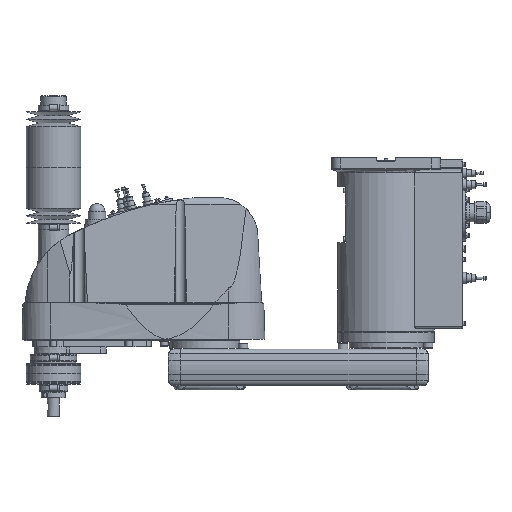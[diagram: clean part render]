
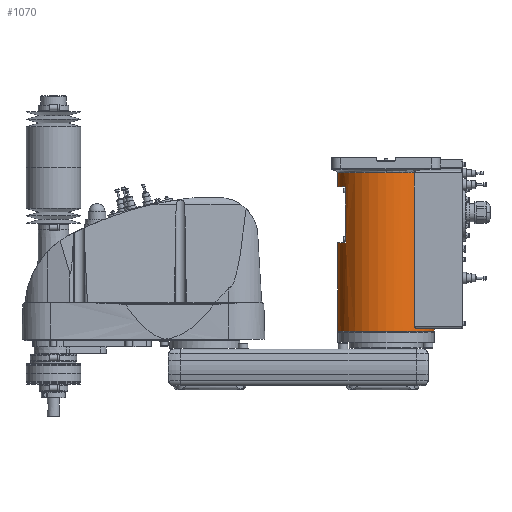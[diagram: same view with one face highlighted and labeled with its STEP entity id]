
A CAD part, top view. The second image highlights one B-rep face of the part: STEP entity #1070.
In plain terms, the highlighted cylindrical face has radius 80 mm (diameter 160 mm), a partial arc.
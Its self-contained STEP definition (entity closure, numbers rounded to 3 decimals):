
#1070 = ADVANCED_FACE( '', ( #3649 ), #3650, .T. );
#3649 = FACE_OUTER_BOUND( '', #7555, .T. );
#3650 = CYLINDRICAL_SURFACE( '', #7556, 80. );
#7555 = EDGE_LOOP( '', ( #15163, #15164, #15165, #15166, #15167, #15168, #15169, #15170, #15171, #15172, #15173, #15174 ) );
#7556 = AXIS2_PLACEMENT_3D( '', #15175, #15176, #15177 );
#15163 = ORIENTED_EDGE( '', *, *, #24198, .T. );
#15164 = ORIENTED_EDGE( '', *, *, #25658, .T. );
#15165 = ORIENTED_EDGE( '', *, *, #25654, .T. );
#15166 = ORIENTED_EDGE( '', *, *, #25684, .T. );
#15167 = ORIENTED_EDGE( '', *, *, #24249, .F. );
#15168 = ORIENTED_EDGE( '', *, *, #24255, .F. );
#15169 = ORIENTED_EDGE( '', *, *, #24204, .T. );
#15170 = ORIENTED_EDGE( '', *, *, #25465, .T. );
#15171 = ORIENTED_EDGE( '', *, *, #25467, .T. );
#15172 = ORIENTED_EDGE( '', *, *, #25468, .T. );
#15173 = ORIENTED_EDGE( '', *, *, #24200, .T. );
#15174 = ORIENTED_EDGE( '', *, *, #25775, .T. );
#15175 = CARTESIAN_POINT( '', ( 0., 160.75, 0. ) );
#15176 = DIRECTION( '', ( 0., -1., 0. ) );
#15177 = DIRECTION( '', ( 1., 0., 0. ) );
#24198 = EDGE_CURVE( '', #28549, #28550, #28551, .T. );
#24200 = EDGE_CURVE( '', #28554, #28552, #28555, .T. );
#24204 = EDGE_CURVE( '', #28562, #28560, #28563, .T. );
#24249 = EDGE_CURVE( '', #28648, #28650, #28651, .T. );
#24255 = EDGE_CURVE( '', #28562, #28648, #28661, .T. );
#25465 = EDGE_CURVE( '', #28560, #30657, #30659, .T. );
#25467 = EDGE_CURVE( '', #30657, #30660, #30662, .T. );
#25468 = EDGE_CURVE( '', #30660, #28554, #30663, .T. );
#25654 = EDGE_CURVE( '', #30955, #30956, #30957, .T. );
#25658 = EDGE_CURVE( '', #28550, #30955, #30961, .T. );
#25684 = EDGE_CURVE( '', #30956, #28650, #31000, .T. );
#25775 = EDGE_CURVE( '', #28552, #28549, #31137, .T. );
#28549 = VERTEX_POINT( '', #35687 );
#28550 = VERTEX_POINT( '', #35688 );
#28551 = LINE( '', #35689, #35690 );
#28552 = VERTEX_POINT( '', #35691 );
#28554 = VERTEX_POINT( '', #35693 );
#28555 = LINE( '', #35694, #35695 );
#28560 = VERTEX_POINT( '', #35701 );
#28562 = VERTEX_POINT( '', #35703 );
#28563 = LINE( '', #35704, #35705 );
#28648 = VERTEX_POINT( '', #35826 );
#28650 = VERTEX_POINT( '', #35828 );
#28651 = CIRCLE( '', #35829, 80. );
#28661 = CIRCLE( '', #35876, 80. );
#30657 = VERTEX_POINT( '', #38670 );
#30659 = CIRCLE( '', #38673, 80. );
#30660 = VERTEX_POINT( '', #38674 );
#30662 = LINE( '', #38677, #38678 );
#30663 = CIRCLE( '', #38679, 80. );
#30955 = VERTEX_POINT( '', #39164 );
#30956 = VERTEX_POINT( '', #39165 );
#30957 = B_SPLINE_CURVE_WITH_KNOTS( '', 3, ( #39166, #39167, #39168, #39169, #39170, #39171, #39172, #39173, #39174, #39175, #39176, #39177, #39178, #39179, #39180, #39181 ), .UNSPECIFIED., .F., .F., ( 4, 2, 2, 2, 2, 2, 2, 4 ), ( -6.06, -5.11, -4.16, -2.26, -1.695, -1.13, -0.565, 0. ), .UNSPECIFIED. );
#30961 = CIRCLE( '', #39188, 80. );
#31000 = LINE( '', #39294, #39295 );
#31137 = CIRCLE( '', #39567, 80. );
#35687 = CARTESIAN_POINT( '', ( 80., 30., 0. ) );
#35688 = CARTESIAN_POINT( '', ( 80., 34.5, 0. ) );
#35689 = CARTESIAN_POINT( '', ( 80., 160.75, 0. ) );
#35690 = VECTOR( '', #49468, 1. );
#35691 = CARTESIAN_POINT( '', ( -80., 30., 0. ) );
#35693 = CARTESIAN_POINT( '', ( -80., 176., 0. ) );
#35694 = CARTESIAN_POINT( '', ( -80., 160.75, 0. ) );
#35695 = VECTOR( '', #49472, 1. );
#35701 = CARTESIAN_POINT( '', ( -80., 269., 0. ) );
#35703 = CARTESIAN_POINT( '', ( -80., 291.5, 0. ) );
#35704 = CARTESIAN_POINT( '', ( -80., 160.75, 0. ) );
#35705 = VECTOR( '', #49480, 1. );
#35826 = CARTESIAN_POINT( '', ( 0., 291.5, 80. ) );
#35828 = CARTESIAN_POINT( '', ( 46.637, 291.5, 65. ) );
#35829 = AXIS2_PLACEMENT_3D( '', #49568, #49569, #49570 );
#35876 = AXIS2_PLACEMENT_3D( '', #49577, #49578, #49579 );
#38670 = CARTESIAN_POINT( '', ( -66., 269., 45.211 ) );
#38673 = AXIS2_PLACEMENT_3D( '', #51701, #51702, #51703 );
#38674 = CARTESIAN_POINT( '', ( -66., 176., 45.211 ) );
#38677 = CARTESIAN_POINT( '', ( -66., 222.5, 45.211 ) );
#38678 = VECTOR( '', #51705, 1. );
#38679 = AXIS2_PLACEMENT_3D( '', #51706, #51707, #51708 );
#39164 = CARTESIAN_POINT( '', ( 50.557, 34.5, 62. ) );
#39165 = CARTESIAN_POINT( '', ( 46.637, 37.5, 65. ) );
#39166 = CARTESIAN_POINT( '', ( 50.557, 34.5, 62. ) );
#39167 = CARTESIAN_POINT( '', ( 50.312, 34.5, 62.2 ) );
#39168 = CARTESIAN_POINT( '', ( 50.054, 34.52, 62.407 ) );
#39169 = CARTESIAN_POINT( '', ( 49.533, 34.607, 62.822 ) );
#39170 = CARTESIAN_POINT( '', ( 49.269, 34.674, 63.029 ) );
#39171 = CARTESIAN_POINT( '', ( 48.491, 34.945, 63.632 ) );
#39172 = CARTESIAN_POINT( '', ( 47.991, 35.221, 64.009 ) );
#39173 = CARTESIAN_POINT( '', ( 47.455, 35.701, 64.405 ) );
#39174 = CARTESIAN_POINT( '', ( 47.333, 35.827, 64.495 ) );
#39175 = CARTESIAN_POINT( '', ( 47.106, 36.105, 64.661 ) );
#39176 = CARTESIAN_POINT( '', ( 47.002, 36.258, 64.736 ) );
#39177 = CARTESIAN_POINT( '', ( 46.828, 36.585, 64.863 ) );
#39178 = CARTESIAN_POINT( '', ( 46.758, 36.761, 64.913 ) );
#39179 = CARTESIAN_POINT( '', ( 46.662, 37.124, 64.982 ) );
#39180 = CARTESIAN_POINT( '', ( 46.637, 37.312, 65. ) );
#39181 = CARTESIAN_POINT( '', ( 46.637, 37.5, 65. ) );
#39188 = AXIS2_PLACEMENT_3D( '', #51973, #51974, #51975 );
#39294 = CARTESIAN_POINT( '', ( 46.637, 164.5, 65. ) );
#39295 = VECTOR( '', #52004, 1. );
#39567 = AXIS2_PLACEMENT_3D( '', #52157, #52158, #52159 );
#49468 = DIRECTION( '', ( 0., 1., 0. ) );
#49472 = DIRECTION( '', ( 0., -1., 0. ) );
#49480 = DIRECTION( '', ( 0., -1., 0. ) );
#49568 = CARTESIAN_POINT( '', ( 0., 291.5, 0. ) );
#49569 = DIRECTION( '', ( 0., 1., 0. ) );
#49570 = DIRECTION( '', ( 1., 0., 0. ) );
#49577 = CARTESIAN_POINT( '', ( 0., 291.5, 0. ) );
#49578 = DIRECTION( '', ( 0., 1., 0. ) );
#49579 = DIRECTION( '', ( 1., 0., 0. ) );
#51701 = CARTESIAN_POINT( '', ( 0., 269., 0. ) );
#51702 = DIRECTION( '', ( 0., 1., 0. ) );
#51703 = DIRECTION( '', ( 1., 0., 0. ) );
#51705 = DIRECTION( '', ( 0., -1., 0. ) );
#51706 = CARTESIAN_POINT( '', ( 0., 176., 0. ) );
#51707 = DIRECTION( '', ( 0., -1., 0. ) );
#51708 = DIRECTION( '', ( 1., 0., 0. ) );
#51973 = CARTESIAN_POINT( '', ( 0., 34.5, 0. ) );
#51974 = DIRECTION( '', ( 0., -1., 0. ) );
#51975 = DIRECTION( '', ( 1., 0., 0. ) );
#52004 = DIRECTION( '', ( 0., 1., 0. ) );
#52157 = CARTESIAN_POINT( '', ( 0., 30., 0. ) );
#52158 = DIRECTION( '', ( 0., 1., 0. ) );
#52159 = DIRECTION( '', ( 1., 0., 0. ) );
